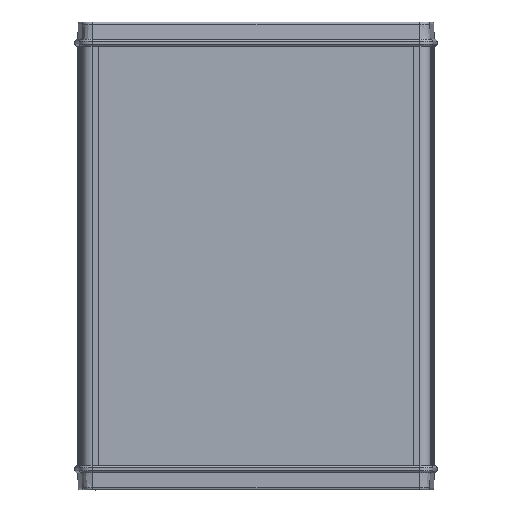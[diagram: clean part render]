
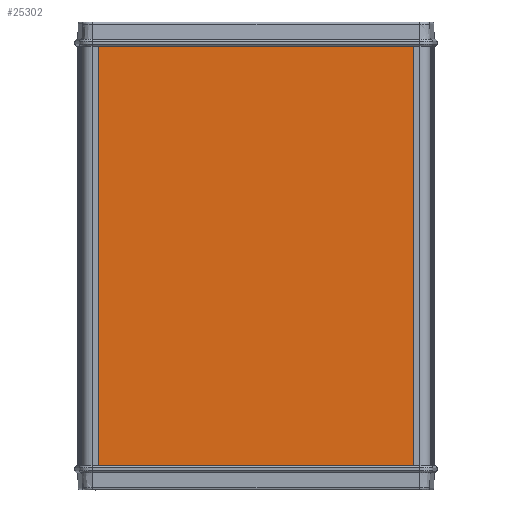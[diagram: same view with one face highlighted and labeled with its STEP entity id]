
A CAD part, front view. The second image highlights one B-rep face of the part: STEP entity #25302.
In plain terms, the highlighted planar face has unit normal (0, -1, 0).
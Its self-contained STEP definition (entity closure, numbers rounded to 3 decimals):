
#2364=FACE_OUTER_BOUND('',#3840,.T.);
#3840=EDGE_LOOP('',(#17717,#17718,#17719,#17720));
#5877=LINE('',#38025,#8467);
#5879=LINE('',#38029,#8469);
#5880=LINE('',#38031,#8470);
#5881=LINE('',#38032,#8471);
#8467=VECTOR('',#30407,200.);
#8469=VECTOR('',#30411,149.);
#8470=VECTOR('',#30412,200.);
#8471=VECTOR('',#30413,149.);
#10923=VERTEX_POINT('',#38022);
#10924=VERTEX_POINT('',#38024);
#10925=VERTEX_POINT('',#38028);
#10926=VERTEX_POINT('',#38030);
#13667=EDGE_CURVE('',#10924,#10923,#5877,.T.);
#13669=EDGE_CURVE('',#10923,#10925,#5879,.T.);
#13670=EDGE_CURVE('',#10926,#10925,#5880,.T.);
#13671=EDGE_CURVE('',#10926,#10924,#5881,.T.);
#17717=ORIENTED_EDGE('',*,*,#13669,.T.);
#17718=ORIENTED_EDGE('',*,*,#13670,.F.);
#17719=ORIENTED_EDGE('',*,*,#13671,.T.);
#17720=ORIENTED_EDGE('',*,*,#13667,.T.);
#24447=PLANE('',#26917);
#25302=ADVANCED_FACE('',(#2364),#24447,.T.);
#26917=AXIS2_PLACEMENT_3D('',#38027,#30409,#30410);
#30407=DIRECTION('',(0.,0.,-1.));
#30409=DIRECTION('center_axis',(0.,-1.,0.));
#30410=DIRECTION('ref_axis',(0.,0.,-1.));
#30411=DIRECTION('',(1.,0.,0.));
#30412=DIRECTION('',(0.,0.,-1.));
#30413=DIRECTION('',(-1.,0.,0.));
#38022=CARTESIAN_POINT('',(6.304,66.916,-200.));
#38024=CARTESIAN_POINT('',(6.304,66.916,0.));
#38025=CARTESIAN_POINT('',(6.304,66.916,0.));
#38027=CARTESIAN_POINT('Origin',(6.304,66.916,0.));
#38028=CARTESIAN_POINT('',(155.304,66.916,-200.));
#38029=CARTESIAN_POINT('',(6.304,66.916,-200.));
#38030=CARTESIAN_POINT('',(155.304,66.916,0.));
#38031=CARTESIAN_POINT('',(155.304,66.916,0.));
#38032=CARTESIAN_POINT('',(155.304,66.916,0.));
